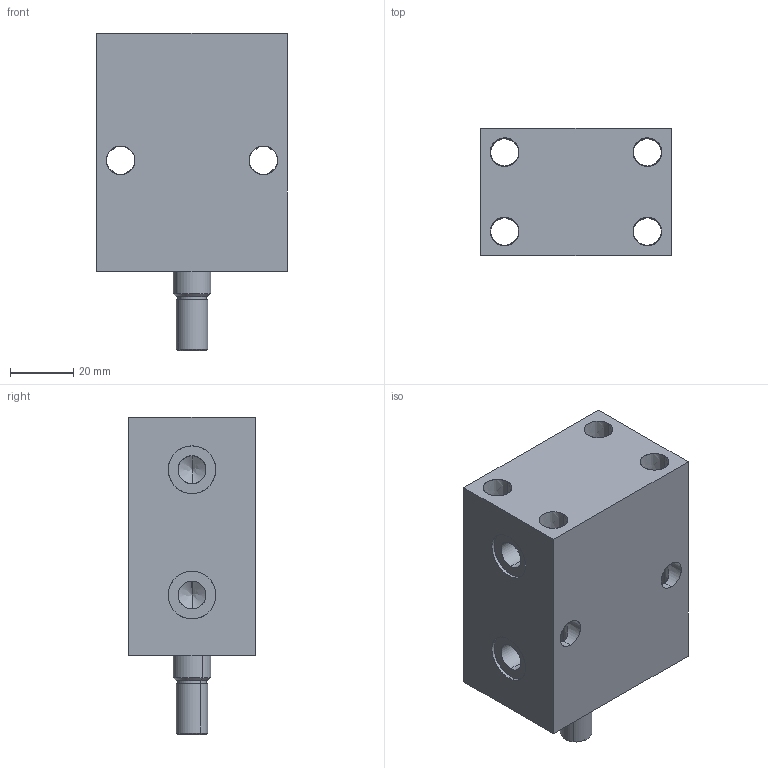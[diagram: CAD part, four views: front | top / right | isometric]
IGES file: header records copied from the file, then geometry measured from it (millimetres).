
Start section: SolidWorks IGES file using analytic representation for surfaces
Global section: file name: D:\karuppas\Clasp\3D model\Block cylinder B01C-Male thread - Copy\B01C-025M\Block cylinder B01C-025M.IGS; native system: SolidWorks 2017; preprocessor: SolidWorks 2017; author: pc; date: 220709.232454; units: millimetre
Bounding box: 60 x 40 x 100 mm (x, y, z)
Surface area: 33643.9 mm2 (no closed solid volume)
Topology: 0 solids, 0 shells, 352 faces, 5441 edges, 5437 vertices
Faces by surface type: bspline 298, revolution 54
